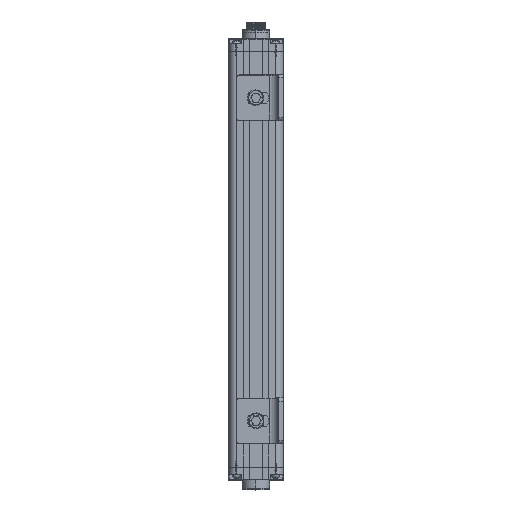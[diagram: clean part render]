
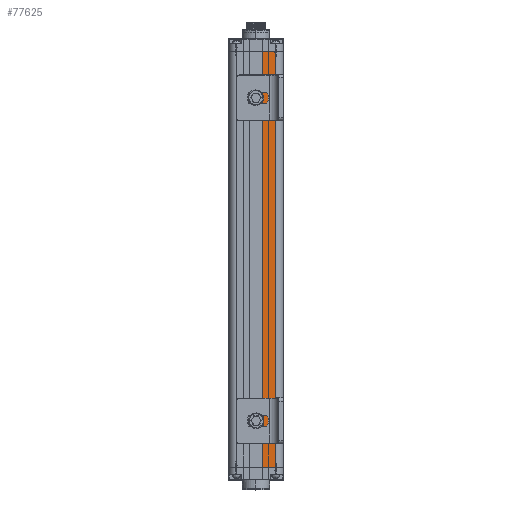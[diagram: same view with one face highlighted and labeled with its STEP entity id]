
A CAD part, top view. The second image highlights one B-rep face of the part: STEP entity #77625.
In plain terms, the highlighted planar face has unit normal (0, 0, 1).
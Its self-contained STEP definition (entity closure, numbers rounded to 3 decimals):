
#4545 = DIRECTION ( 'NONE',  ( 1., 0., 0. ) ) ;
#11087 = LINE ( 'NONE', #24548, #85633 ) ;
#20615 = CARTESIAN_POINT ( 'NONE',  ( 12.35, 265., 13.225 ) ) ;
#21450 = ORIENTED_EDGE ( 'NONE', *, *, #132846, .F. ) ;
#22494 = ORIENTED_EDGE ( 'NONE', *, *, #95394, .F. ) ;
#24548 = CARTESIAN_POINT ( 'NONE',  ( 4.4, 0., 13.225 ) ) ;
#24761 = ORIENTED_EDGE ( 'NONE', *, *, #109635, .T. ) ;
#30850 = CARTESIAN_POINT ( 'NONE',  ( 0., 265., 13.225 ) ) ;
#32900 = EDGE_LOOP ( 'NONE', ( #123077, #24761, #21450, #22494 ) ) ;
#45737 = CARTESIAN_POINT ( 'NONE',  ( 4.4, 265., 13.225 ) ) ;
#56697 = VECTOR ( 'NONE', #80475, 1000. ) ;
#64393 = VECTOR ( 'NONE', #119164, 1000. ) ;
#67975 = LINE ( 'NONE', #136492, #99302 ) ;
#68064 = VERTEX_POINT ( 'NONE', #45737 ) ;
#68356 = CARTESIAN_POINT ( 'NONE',  ( 12.35, 0., 13.225 ) ) ;
#69150 = CARTESIAN_POINT ( 'NONE',  ( 4.4, 0., 13.225 ) ) ;
#72046 = VERTEX_POINT ( 'NONE', #109083 ) ;
#74056 = LINE ( 'NONE', #68356, #56697 ) ;
#75501 = CARTESIAN_POINT ( 'NONE',  ( 4.4, 0., 13.225 ) ) ;
#77625 = ADVANCED_FACE ( 'NONE', ( #130781 ), #108981, .T. ) ;
#80475 = DIRECTION ( 'NONE',  ( 0., -1., 0. ) ) ;
#84068 = EDGE_CURVE ( 'NONE', #68064, #107057, #11087, .T. ) ;
#85633 = VECTOR ( 'NONE', #102178, 1000. ) ;
#86148 = DIRECTION ( 'NONE',  ( 0., 0., 1. ) ) ;
#93871 = LINE ( 'NONE', #30850, #64393 ) ;
#95394 = EDGE_CURVE ( 'NONE', #68064, #108428, #93871, .T. ) ;
#99302 = VECTOR ( 'NONE', #4545, 1000. ) ;
#101966 = AXIS2_PLACEMENT_3D ( 'NONE', #75501, #86148, #130847 ) ;
#102178 = DIRECTION ( 'NONE',  ( 0., -1., 0. ) ) ;
#107057 = VERTEX_POINT ( 'NONE', #69150 ) ;
#108428 = VERTEX_POINT ( 'NONE', #20615 ) ;
#108981 = PLANE ( 'NONE',  #101966 ) ;
#109083 = CARTESIAN_POINT ( 'NONE',  ( 12.35, 0., 13.225 ) ) ;
#109635 = EDGE_CURVE ( 'NONE', #107057, #72046, #67975, .T. ) ;
#119164 = DIRECTION ( 'NONE',  ( 1., 0., 0. ) ) ;
#123077 = ORIENTED_EDGE ( 'NONE', *, *, #84068, .T. ) ;
#130781 = FACE_OUTER_BOUND ( 'NONE', #32900, .T. ) ;
#130847 = DIRECTION ( 'NONE',  ( 1., 0., 0. ) ) ;
#132846 = EDGE_CURVE ( 'NONE', #108428, #72046, #74056, .T. ) ;
#136492 = CARTESIAN_POINT ( 'NONE',  ( 0., 0., 13.225 ) ) ;
